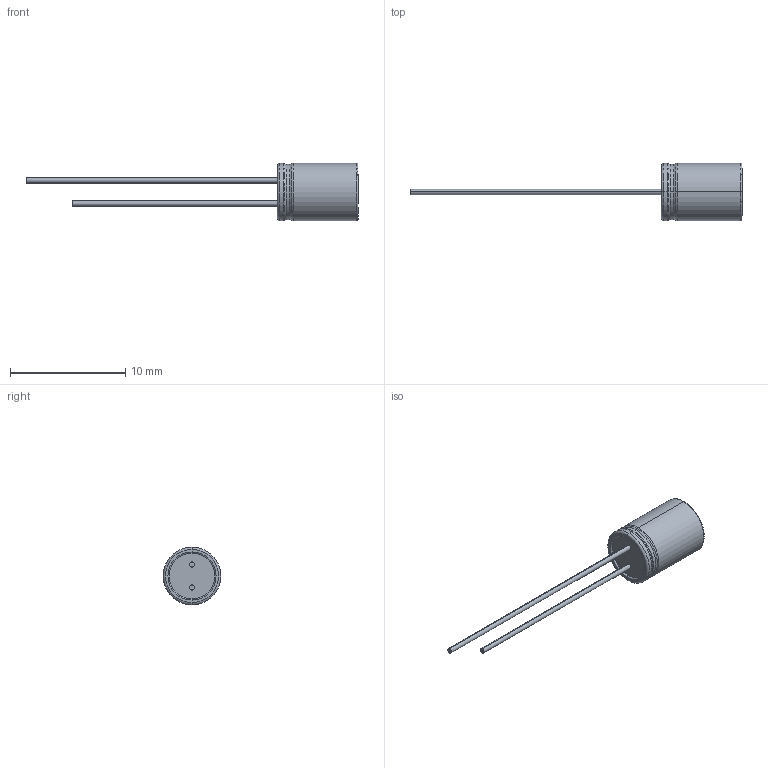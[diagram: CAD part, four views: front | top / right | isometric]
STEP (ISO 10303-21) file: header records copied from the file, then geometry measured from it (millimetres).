
FILE_DESCRIPTION((''),'2;1');
FILE_NAME('POLYMER-RADIAL5X7','2020-06-03T',('xy'),(''),'PRO/ENGINEER BY PARAMETRIC TECHNOLOGY CORPORATION, 2009380','PRO/ENGINEER BY PARAMETRIC TECHNOLOGY CORPORATION, 2009380','');
FILE_SCHEMA(('CONFIG_CONTROL_DESIGN'));
Length unit declared in the file: millimetre
Products named in the file (1): POLYMER-RADIAL5X7
Bounding box: 28.8 x 5 x 5 mm (x, y, z)
Volume: 140.4 mm3; surface area: 206.4 mm2
Topology: 1 solids, 1 shells, 415 faces, 1147 edges, 758 vertices
Faces by surface type: plane 388, cylinder 13, torus 10, cone 4
Entity records: 13006 total; most frequent: CARTESIAN_POINT 2320, ORIENTED_EDGE 2294, DIRECTION 2024, EDGE_CURVE 1147, VECTOR 1100, LINE 1100, VERTEX_POINT 758, AXIS2_PLACEMENT_3D 462
